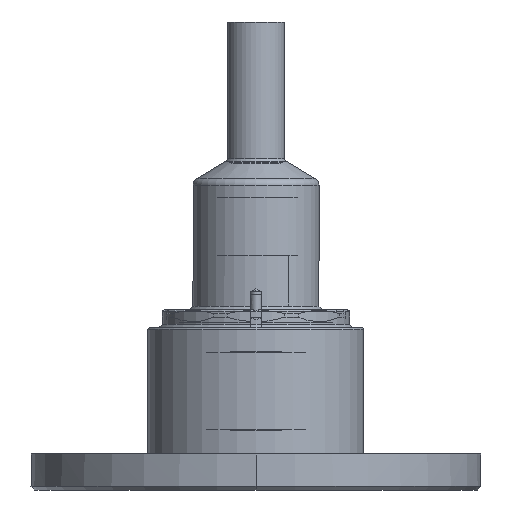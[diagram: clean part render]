
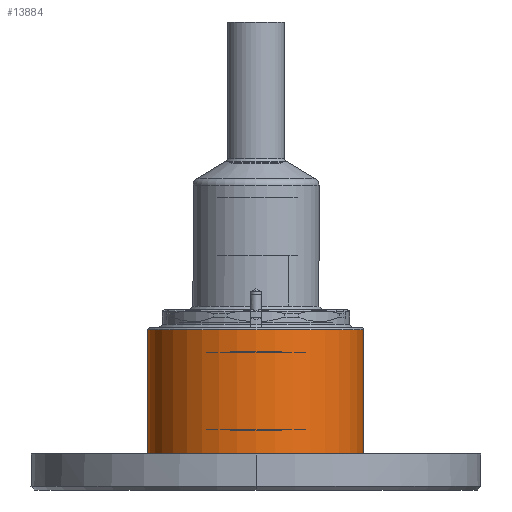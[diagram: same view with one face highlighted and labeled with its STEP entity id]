
A CAD part, front view. The second image highlights one B-rep face of the part: STEP entity #13884.
In plain terms, the highlighted cylindrical face has radius 30 mm (diameter 60 mm), a partial arc.
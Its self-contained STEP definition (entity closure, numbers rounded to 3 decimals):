
#701 = EDGE_CURVE ( 'NONE', #4009, #1594, #4927, .T. ) ;
#1594 = VERTEX_POINT ( 'NONE', #2121 ) ;
#2121 = CARTESIAN_POINT ( 'NONE',  ( 30., 0., 34.5 ) ) ;
#2801 = VECTOR ( 'NONE', #12672, 1000. ) ;
#2868 = CIRCLE ( 'NONE', #7293, 30. ) ;
#3395 = ORIENTED_EDGE ( 'NONE', *, *, #4541, .F. ) ;
#3565 = CARTESIAN_POINT ( 'NONE',  ( 30., 0., 0. ) ) ;
#3857 = VERTEX_POINT ( 'NONE', #10639 ) ;
#3873 = CYLINDRICAL_SURFACE ( 'NONE', #8820, 30. ) ;
#4009 = VERTEX_POINT ( 'NONE', #3565 ) ;
#4195 = EDGE_LOOP ( 'NONE', ( #3395, #6079, #6873, #11946 ) ) ;
#4541 = EDGE_CURVE ( 'NONE', #13987, #3857, #8059, .T. ) ;
#4927 = LINE ( 'NONE', #13989, #5932 ) ;
#5288 = CIRCLE ( 'NONE', #11915, 30. ) ;
#5850 = DIRECTION ( 'NONE',  ( 0., 0., 1. ) ) ;
#5932 = VECTOR ( 'NONE', #14041, 1000. ) ;
#6079 = ORIENTED_EDGE ( 'NONE', *, *, #7943, .T. ) ;
#6740 = DIRECTION ( 'NONE',  ( 0., 0., 1. ) ) ;
#6749 = FACE_OUTER_BOUND ( 'NONE', #4195, .T. ) ;
#6873 = ORIENTED_EDGE ( 'NONE', *, *, #701, .T. ) ;
#7293 = AXIS2_PLACEMENT_3D ( 'NONE', #14029, #12925, #11728 ) ;
#7943 = EDGE_CURVE ( 'NONE', #13987, #4009, #5288, .T. ) ;
#7994 = CARTESIAN_POINT ( 'NONE',  ( 0., 0., 0. ) ) ;
#8059 = LINE ( 'NONE', #11730, #2801 ) ;
#8820 = AXIS2_PLACEMENT_3D ( 'NONE', #10011, #6740, #13142 ) ;
#9199 = EDGE_CURVE ( 'NONE', #3857, #1594, #2868, .T. ) ;
#10011 = CARTESIAN_POINT ( 'NONE',  ( 0., 0., 47.584 ) ) ;
#10217 = DIRECTION ( 'NONE',  ( 0., 1., 0. ) ) ;
#10639 = CARTESIAN_POINT ( 'NONE',  ( -30., 0., 34.5 ) ) ;
#11728 = DIRECTION ( 'NONE',  ( 1., 0., 0. ) ) ;
#11730 = CARTESIAN_POINT ( 'NONE',  ( -30., 0., 47.584 ) ) ;
#11915 = AXIS2_PLACEMENT_3D ( 'NONE', #7994, #5850, #10217 ) ;
#11946 = ORIENTED_EDGE ( 'NONE', *, *, #9199, .F. ) ;
#12318 = CARTESIAN_POINT ( 'NONE',  ( -30., 0., 0. ) ) ;
#12672 = DIRECTION ( 'NONE',  ( 0., 0., 1. ) ) ;
#12925 = DIRECTION ( 'NONE',  ( 0., 0., 1. ) ) ;
#13142 = DIRECTION ( 'NONE',  ( 1., 0., 0. ) ) ;
#13884 = ADVANCED_FACE ( 'NONE', ( #6749 ), #3873, .T. ) ;
#13987 = VERTEX_POINT ( 'NONE', #12318 ) ;
#13989 = CARTESIAN_POINT ( 'NONE',  ( 30., 0., 47.584 ) ) ;
#14029 = CARTESIAN_POINT ( 'NONE',  ( 0., 0., 34.5 ) ) ;
#14041 = DIRECTION ( 'NONE',  ( 0., 0., 1. ) ) ;
